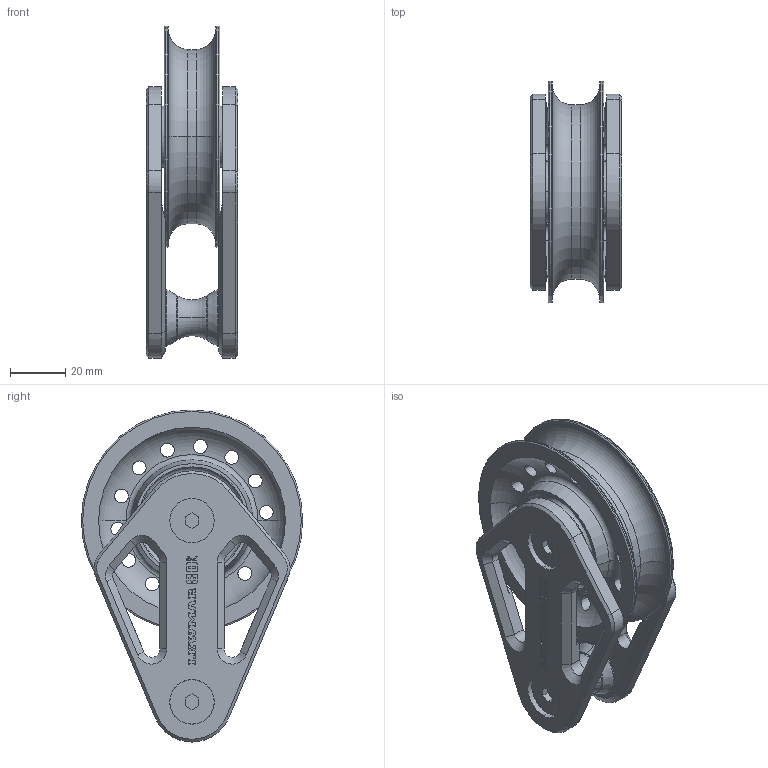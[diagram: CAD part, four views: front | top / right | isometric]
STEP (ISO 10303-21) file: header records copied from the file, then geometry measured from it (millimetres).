
FILE_DESCRIPTION((''),'2;1');
FILE_NAME('29902801_ASM','2005-05-31T',('NBelton'),(''),'PRO/ENGINEER BY PARAMETRIC TECHNOLOGY CORPORATION, 2004320','PRO/ENGINEER BY PARAMETRIC TECHNOLOGY CORPORATION, 2004320','');
FILE_SCHEMA(('CONFIG_CONTROL_DESIGN'));
Length unit declared in the file: millimetre
Products named in the file (5): 25001944; 25002303; 25000808; B5332-A4; 29902801_ASM
Assembly tree (8 placements, depth 2):
  29902801_ASM
    25001944
    25002303  x2
    25000808
    B5332-A4  x4
Bounding box: 33.2 x 80 x 120 mm (x, y, z)
Volume: 82277.6 mm3; surface area: 47103.8 mm2
Topology: 8 solids, 8 shells, 718 faces, 1822 edges, 1168 vertices
Faces by surface type: plane 438, cylinder 166, cone 70, torus 44
Entity records: 13062 total; most frequent: CARTESIAN_POINT 3010, DIRECTION 2065, ORIENTED_EDGE 2034, EDGE_CURVE 1017, AXIS2_PLACEMENT_3D 695, VECTOR 675, LINE 675, VERTEX_POINT 648
